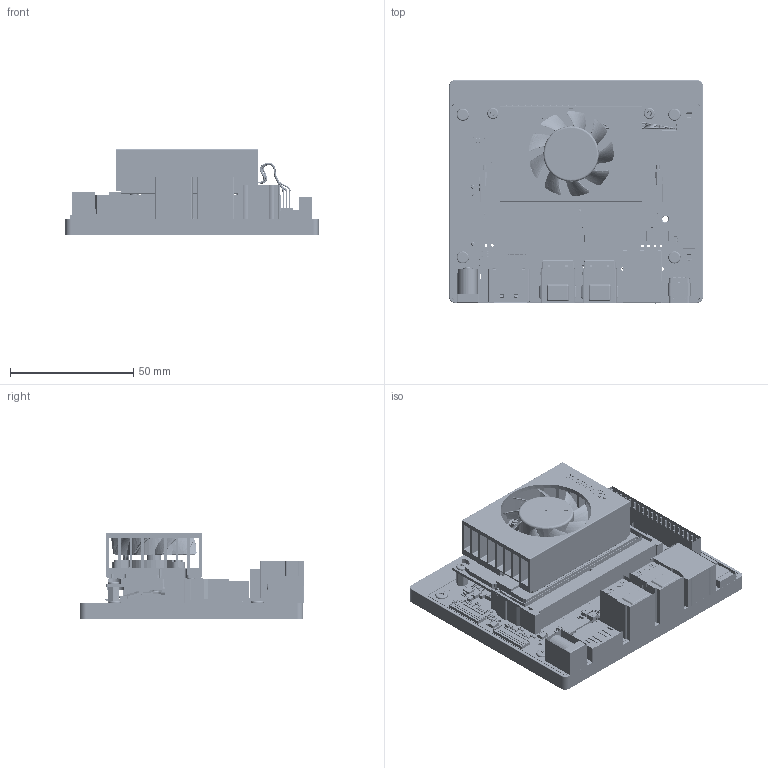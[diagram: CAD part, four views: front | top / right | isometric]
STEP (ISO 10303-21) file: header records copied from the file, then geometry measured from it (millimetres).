
FILE_DESCRIPTION((''),'2;1');
FILE_NAME('000_ARVALA_TLA_ASM','2023-02-03T12:47:27',('cgalutera'),(''),'CREO PARAMETRIC BY PTC INC, 2020281','CREO PARAMETRIC BY PTC INC, 2020281','');
FILE_SCHEMA(('CONFIG_CONTROL_DESIGN','GEOMETRIC_VALIDATION_PROPERTIES_MIM'));
Products named in the file (132): 155-0901-000; GROGU_MODULE_BOARD_ME; 080-1655-000_3; P3767-GROGU_ASM; 155-GROGU-000; LEAFSPRING-P3767-CG; 095-0180-000-TS1; M1_6_0_35PITX4MM_MACHINE; 3514_18; 3514-IMPELLER-J441-346-2_6; 3514_ASM_2_ASM; WIRE_FAN_P3518; 3514_ASM_1112_ASM; 095-0180-000-TS1_ASM; P3767_ASM; 600-13768-0000-A04; 174-0159-000_2; 064-0267-000_1; 074-0221-000_3; 080-1656-000_3; 064-0437-000_1; 080-1898-000_1; 080-1243-000_3; 080-1483-000_2; 090-0172-000_1; 065-0738-000_1; 074-0239-000_1; LL_VENDOR_DATECODE_TOP_SML; 090-0155-000_1; MECH_RECT_01000X00790_HOLES_C_AF0; 155-0697-000_2_AF0; 155-0697-000_2_AF1; 155-0697-000_2_AF2; 092-0073-000_1; 300-0868-000_3; 300-1253-000_1; LOGO_LABEL_699_PPID_0050X0050; 316-0703-000_1; 090-0343-000_1; 032-0696-000_1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
Assembly tree (816 placements, depth 6):
  000_ARVALA_TLA_ASM
    155-0901-000  x2
    P3767_ASM
      P3767-GROGU_ASM
        GROGU_MODULE_BOARD_ME
        080-1655-000_3
      155-GROGU-000  x4
      LEAFSPRING-P3767-CG
      095-0180-000-TS1_ASM
        095-0180-000-TS1
        M1_6_0_35PITX4MM_MACHINE  x3
        3514_ASM_1112_ASM
          3514_ASM_2_ASM
            3514_18
            3514-IMPELLER-J441-346-2_6
          WIRE_FAN_P3518
    600-13768-0000-A04_ASM
      600-13768-0000-A04
      174-0159-000_2
      064-0267-000_1
      074-0221-000_3
      080-1656-000_3
      064-0437-000_1
      080-1898-000_1
      080-1243-000_3
      080-1483-000_2  x2
      090-0172-000_1  x30
      065-0738-000_1  x2
      074-0239-000_1
      LL_VENDOR_DATECODE_TOP_SML
      090-0155-000_1
      MECH_RECT_01000X00790_HOLES_C_AF0
      155-0697-000_2_AF0
      155-0697-000_2_AF1
      155-0697-000_2_AF2
      092-0073-000_1
      300-0868-000_3
      300-1253-000_1  x5
      LOGO_LABEL_699_PPID_0050X0050
      316-0703-000_1
      090-0343-000_1
      032-0696-000_1  x3
      032-0681-000_1  x2
      115-2747-000_1  x4
      115-0138-000_1  x4
      115-0085-000_1
      0603_H100  x20
      0603_H060  x3
      064-0404-000_1
      FID_40_80SM  x6
      LOGO_LABEL_PPID_0180X0050
      130-1404-000_1  x2
      195-3883-000_1  x2
      VIRTUAL_SHORT  x16
      LTPT025C  x8
      080-1890-000_1
      115-2791-000_1
      032-0796-000_1  x2
      MULTI_QFN020R_P050_0025X00_GREY
      080-2191-000_1  x2
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Bounding box: 103 x 90.88 x 34.77 mm (x, y, z)
Volume: 71034.2 mm3; surface area: 124225.2 mm2
Topology: 1393 solids, 1925 shells, 57716 faces, 158896 edges, 104980 vertices
Faces by surface type: plane 47032, cylinder 9396, bspline 590, cone 304, torus 197, sphere 99, extrusion 98
Entity records: 1382984 total; most frequent: CARTESIAN_POINT 228937, ORIENTED_EDGE 172780, DIRECTION 164370, EDGE_CURVE 86925, PRESENTATION_STYLE_ASSIGNMENT 80179, STYLED_ITEM 73167, VECTOR 71440, LINE 71374
